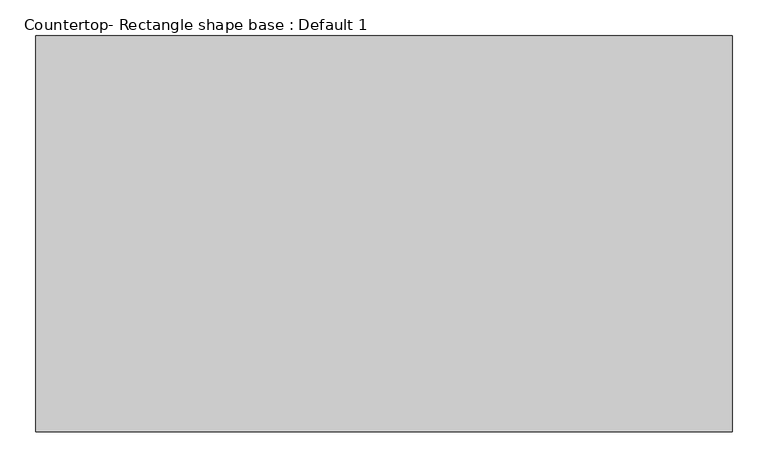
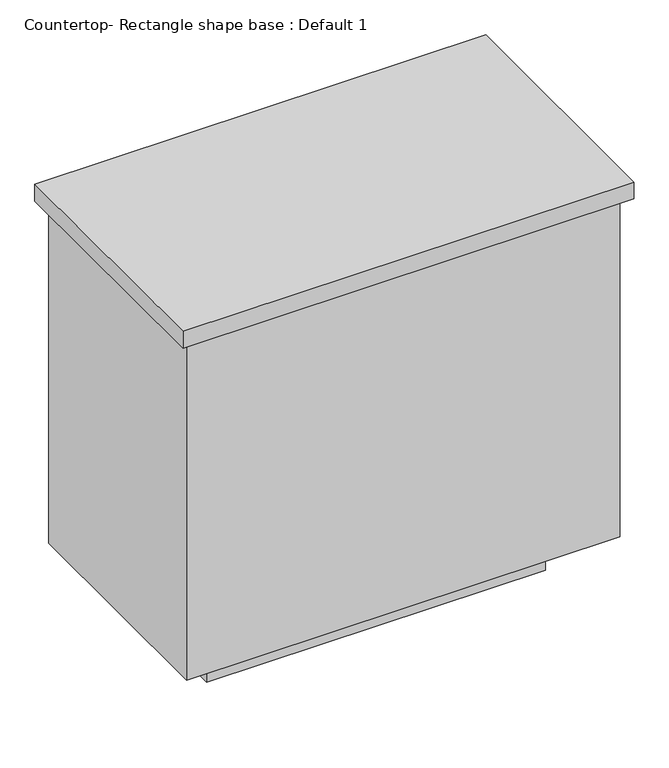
"""IFC4 building model written with IfcOpenShell, lengths in millimetres: proxy geometry, Countertop- Rectangle shape base : Default 1."""

from ifc_helpers import new_model, si_unit, frame, origin, origin_with_axes, place, context, project, spatial, polyline, outline, extrude, source, transform, mapped, element, save


def countertop_rectangle_shape_base_default_1_c270ed30(model_context):
    return source(origin(), model_context, "Body", "SweptSolid", [
        extrude(outline(polyline([(276.225, 104.775), (276.225, 657.225), (1247.775, 657.225), (1247.775, 104.775), (276.225, 104.775)])), frame((0.0, 0.0, 876.3), z_axis=(0.0, 0.0, 1.0), x_axis=(1.0, 0.0, 0.0)), (0.0, 0.0, 1.0), 38.1),
        extrude(outline(polyline([(1228.725, 638.175), (1228.725, 123.825), (295.275, 123.825), (295.275, 638.175), (1228.725, 638.175)])), frame((0.0, 0.0, 101.6), z_axis=(0.0, 0.0, 1.0), x_axis=(1.0, 0.0, 0.0)), (0.0, 0.0, 1.0), 774.7),
        extrude(outline(polyline([(1127.125, 536.575), (1127.125, 225.425), (396.875, 225.425), (396.875, 536.575), (1127.125, 536.575)])), origin_with_axes(), (0.0, 0.0, 1.0), 101.6),
    ])


if __name__ == "__main__":
    model = new_model("IFC4")
    model_context = context("Model", 3, world=origin())
    ifc_project = project(units=[si_unit("LENGTHUNIT", "METRE", prefix="MILLI")], contexts=[model_context])
    site = spatial("IfcSite", under=ifc_project)
    building = spatial("IfcBuilding", under=site)
    placement = place(None, origin())
    countertop_rectangle_shape_base_default_1_shape = countertop_rectangle_shape_base_default_1_c270ed30(model_context)
    element("IfcBuildingElementProxy", 1, Name="Countertop- Rectangle shape base : Default 1", ObjectType="Countertop- Rectangle shape base : Default 1", at=placement, inside=building, context=model_context, shape_type="MappedRepresentation", body=[
        mapped(countertop_rectangle_shape_base_default_1_shape, transform((0.0, 0.0, 0.0), x_axis=(1.0, 0.0, 0.0), y_axis=(0.0, 1.0, 0.0), z_axis=(0.0, 0.0, 1.0))),
    ])
    save(model, "model.ifc")
